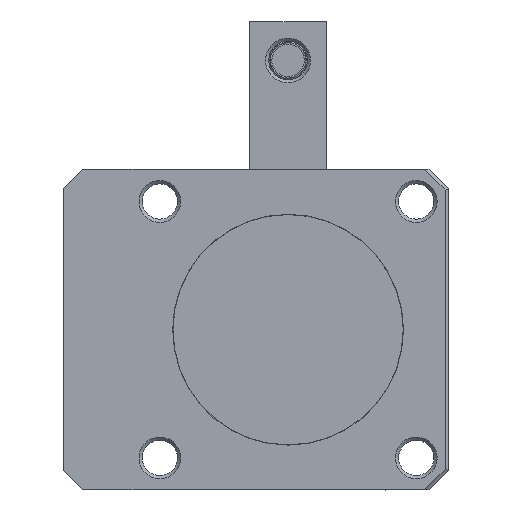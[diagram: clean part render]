
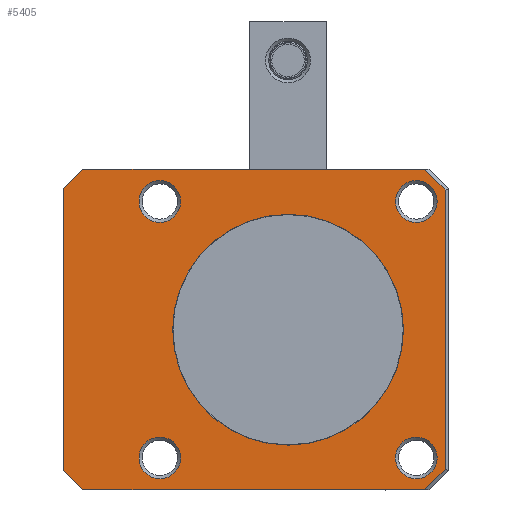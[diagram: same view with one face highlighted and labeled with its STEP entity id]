
A CAD part, front view. The second image highlights one B-rep face of the part: STEP entity #5405.
In plain terms, the highlighted planar face has unit normal (0, -1, 0).
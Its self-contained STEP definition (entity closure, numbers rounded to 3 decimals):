
#140=PLANE('',#6040);
#249=FACE_BOUND('',#772,.T.);
#250=FACE_BOUND('',#773,.T.);
#251=FACE_BOUND('',#774,.T.);
#252=FACE_BOUND('',#775,.T.);
#253=FACE_BOUND('',#776,.T.);
#444=FACE_OUTER_BOUND('',#771,.T.);
#771=EDGE_LOOP('',(#3795,#3796,#3797,#3798,#3799,#3800,#3801,#3802));
#772=EDGE_LOOP('',(#3803));
#773=EDGE_LOOP('',(#3804));
#774=EDGE_LOOP('',(#3805));
#775=EDGE_LOOP('',(#3806));
#776=EDGE_LOOP('',(#3807));
#1147=LINE('',#8885,#1545);
#1159=LINE('',#8911,#1557);
#1160=LINE('',#8913,#1558);
#1161=LINE('',#8915,#1559);
#1162=LINE('',#8917,#1560);
#1163=LINE('',#8919,#1561);
#1164=LINE('',#8921,#1562);
#1165=LINE('',#8922,#1563);
#1545=VECTOR('',#6872,1000.);
#1557=VECTOR('',#6894,1000.);
#1558=VECTOR('',#6895,1000.);
#1559=VECTOR('',#6896,1000.);
#1560=VECTOR('',#6897,1000.);
#1561=VECTOR('',#6898,1000.);
#1562=VECTOR('',#6899,1000.);
#1563=VECTOR('',#6900,1000.);
#1905=CIRCLE('',#5965,3.25);
#1908=CIRCLE('',#5969,3.25);
#1911=CIRCLE('',#5973,3.25);
#1914=CIRCLE('',#5977,3.25);
#1915=CIRCLE('',#5979,18.);
#2280=VERTEX_POINT('',#8513);
#2283=VERTEX_POINT('',#8521);
#2286=VERTEX_POINT('',#8529);
#2289=VERTEX_POINT('',#8537);
#2290=VERTEX_POINT('',#8541);
#2349=VERTEX_POINT('',#8882);
#2350=VERTEX_POINT('',#8884);
#2359=VERTEX_POINT('',#8910);
#2360=VERTEX_POINT('',#8912);
#2361=VERTEX_POINT('',#8914);
#2362=VERTEX_POINT('',#8916);
#2363=VERTEX_POINT('',#8918);
#2364=VERTEX_POINT('',#8920);
#2811=EDGE_CURVE('',#2280,#2280,#1905,.T.);
#2815=EDGE_CURVE('',#2283,#2283,#1908,.T.);
#2819=EDGE_CURVE('',#2286,#2286,#1911,.T.);
#2823=EDGE_CURVE('',#2289,#2289,#1914,.T.);
#2824=EDGE_CURVE('',#2290,#2290,#1915,.T.);
#2905=EDGE_CURVE('',#2349,#2350,#1147,.T.);
#2918=EDGE_CURVE('',#2359,#2349,#1159,.T.);
#2919=EDGE_CURVE('',#2360,#2359,#1160,.T.);
#2920=EDGE_CURVE('',#2361,#2360,#1161,.T.);
#2921=EDGE_CURVE('',#2362,#2361,#1162,.T.);
#2922=EDGE_CURVE('',#2363,#2362,#1163,.T.);
#2923=EDGE_CURVE('',#2364,#2363,#1164,.T.);
#2924=EDGE_CURVE('',#2350,#2364,#1165,.T.);
#3795=ORIENTED_EDGE('',*,*,#2905,.F.);
#3796=ORIENTED_EDGE('',*,*,#2918,.F.);
#3797=ORIENTED_EDGE('',*,*,#2919,.F.);
#3798=ORIENTED_EDGE('',*,*,#2920,.F.);
#3799=ORIENTED_EDGE('',*,*,#2921,.F.);
#3800=ORIENTED_EDGE('',*,*,#2922,.F.);
#3801=ORIENTED_EDGE('',*,*,#2923,.F.);
#3802=ORIENTED_EDGE('',*,*,#2924,.F.);
#3803=ORIENTED_EDGE('',*,*,#2811,.F.);
#3804=ORIENTED_EDGE('',*,*,#2815,.F.);
#3805=ORIENTED_EDGE('',*,*,#2819,.F.);
#3806=ORIENTED_EDGE('',*,*,#2823,.F.);
#3807=ORIENTED_EDGE('',*,*,#2824,.F.);
#5405=ADVANCED_FACE('',(#444,#249,#250,#251,#252,#253),#140,.F.);
#5965=AXIS2_PLACEMENT_3D('',#8515,#6690,#6691);
#5969=AXIS2_PLACEMENT_3D('',#8523,#6699,#6700);
#5973=AXIS2_PLACEMENT_3D('',#8531,#6708,#6709);
#5977=AXIS2_PLACEMENT_3D('',#8539,#6717,#6718);
#5979=AXIS2_PLACEMENT_3D('',#8542,#6721,#6722);
#6040=AXIS2_PLACEMENT_3D('',#8909,#6892,#6893);
#6690=DIRECTION('center_axis',(0.,-1.,0.));
#6691=DIRECTION('ref_axis',(0.,0.,
-1.));
#6699=DIRECTION('center_axis',(0.,-1.,0.));
#6700=DIRECTION('ref_axis',(0.,0.,
-1.));
#6708=DIRECTION('center_axis',(0.,-1.,0.));
#6709=DIRECTION('ref_axis',(0.,0.,
-1.));
#6717=DIRECTION('center_axis',(0.,-1.,0.));
#6718=DIRECTION('ref_axis',(0.,0.,-1.));
#6721=DIRECTION('center_axis',(0.,-1.,0.));
#6722=DIRECTION('ref_axis',(0.,0.,1.));
#6872=DIRECTION('',(1.,0.,0.));
#6892=DIRECTION('center_axis',(0.,1.,0.));
#6893=DIRECTION('ref_axis',(0.,0.,1.));
#6894=DIRECTION('',(0.707,0.,0.707));
#6895=DIRECTION('',(0.,0.,1.));
#6896=DIRECTION('',(-0.707,0.,0.707));
#6897=DIRECTION('',(-1.,0.,0.));
#6898=DIRECTION('',(-0.707,0.,-0.707));
#6899=DIRECTION('',(0.,0.,-1.));
#6900=DIRECTION('',(0.707,0.,-0.707));
#8513=CARTESIAN_POINT('',(411.833,54.859,-16.75));
#8515=CARTESIAN_POINT('Origin',(411.833,54.859,-20.));
#8521=CARTESIAN_POINT('',(451.833,54.859,-16.75));
#8523=CARTESIAN_POINT('Origin',(451.833,54.859,-20.));
#8529=CARTESIAN_POINT('',(451.833,54.859,23.25));
#8531=CARTESIAN_POINT('Origin',(451.833,54.859,20.));
#8537=CARTESIAN_POINT('',(411.833,54.859,23.25));
#8539=CARTESIAN_POINT('Origin',(411.833,54.859,20.));
#8541=CARTESIAN_POINT('',(431.833,54.859,-18.));
#8542=CARTESIAN_POINT('Origin',(431.833,54.859,0.));
#8882=CARTESIAN_POINT('',(399.833,54.859,25.));
#8884=CARTESIAN_POINT('',(453.126,54.859,25.));
#8885=CARTESIAN_POINT('',(399.833,54.859,25.));
#8909=CARTESIAN_POINT('Origin',(456.333,54.859,-25.));
#8910=CARTESIAN_POINT('',(396.833,54.859,22.));
#8911=CARTESIAN_POINT('',(396.833,54.859,22.));
#8912=CARTESIAN_POINT('',(396.833,54.859,-22.));
#8913=CARTESIAN_POINT('',(396.833,54.859,-25.));
#8914=CARTESIAN_POINT('',(399.833,54.859,-25.));
#8915=CARTESIAN_POINT('',(399.833,54.859,-25.));
#8916=CARTESIAN_POINT('',(453.126,54.859,-25.));
#8917=CARTESIAN_POINT('',(456.333,54.859,-25.));
#8918=CARTESIAN_POINT('',(456.333,54.859,-21.793));
#8919=CARTESIAN_POINT('',(456.333,54.859,-21.793));
#8920=CARTESIAN_POINT('',(456.333,54.859,21.793));
#8921=CARTESIAN_POINT('',(456.333,54.859,-25.));
#8922=CARTESIAN_POINT('',(453.126,54.859,25.));
